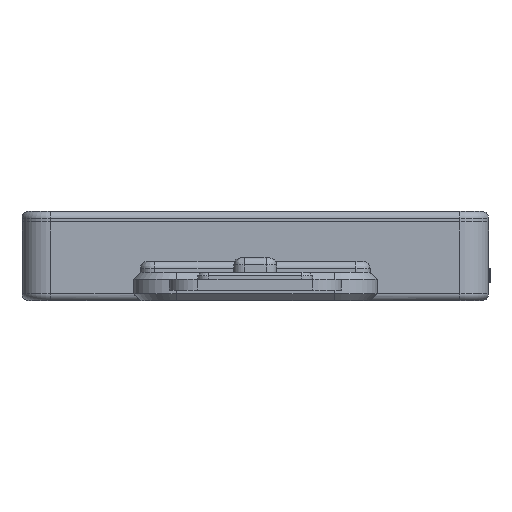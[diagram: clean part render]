
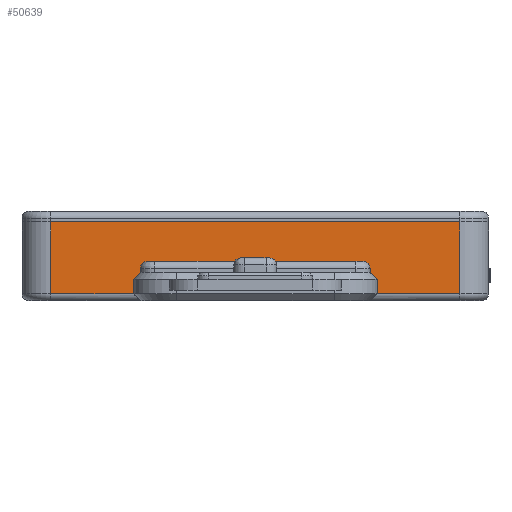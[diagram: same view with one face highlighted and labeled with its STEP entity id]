
A CAD part, front view. The second image highlights one B-rep face of the part: STEP entity #50639.
In plain terms, the highlighted planar face has unit normal (0, -1, 0).
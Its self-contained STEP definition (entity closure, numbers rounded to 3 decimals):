
#2737=PLANE('',#54921);
#5270=FACE_OUTER_BOUND('',#8335,.T.);
#8335=EDGE_LOOP('',(#44673,#44674,#44675,#44676,#44677,#44678,#44679,#44680,
#44681,#44682,#44683,#44684,#44685,#44686,#44687,#44688));
#13650=LINE('',#83322,#19224);
#13652=LINE('',#83328,#19226);
#13653=LINE('',#83330,#19227);
#13654=LINE('',#83332,#19228);
#13655=LINE('',#83334,#19229);
#13656=LINE('',#83336,#19230);
#13657=LINE('',#83338,#19231);
#13658=LINE('',#83340,#19232);
#13659=LINE('',#83342,#19233);
#13660=LINE('',#83344,#19234);
#13661=LINE('',#83346,#19235);
#13662=LINE('',#83348,#19236);
#13663=LINE('',#83350,#19237);
#13664=LINE('',#83352,#19238);
#13665=LINE('',#83354,#19239);
#13666=LINE('',#83355,#19240);
#19224=VECTOR('',#67275,10.);
#19226=VECTOR('',#67281,10.);
#19227=VECTOR('',#67282,10.);
#19228=VECTOR('',#67283,10.);
#19229=VECTOR('',#67284,10.);
#19230=VECTOR('',#67285,10.);
#19231=VECTOR('',#67286,10.);
#19232=VECTOR('',#67287,10.);
#19233=VECTOR('',#67288,10.);
#19234=VECTOR('',#67289,10.);
#19235=VECTOR('',#67290,10.);
#19236=VECTOR('',#67291,10.);
#19237=VECTOR('',#67292,10.);
#19238=VECTOR('',#67293,10.);
#19239=VECTOR('',#67294,10.);
#19240=VECTOR('',#67295,10.);
#25182=VERTEX_POINT('',#83319);
#25183=VERTEX_POINT('',#83321);
#25185=VERTEX_POINT('',#83327);
#25186=VERTEX_POINT('',#83329);
#25187=VERTEX_POINT('',#83331);
#25188=VERTEX_POINT('',#83333);
#25189=VERTEX_POINT('',#83335);
#25190=VERTEX_POINT('',#83337);
#25191=VERTEX_POINT('',#83339);
#25192=VERTEX_POINT('',#83341);
#25193=VERTEX_POINT('',#83343);
#25194=VERTEX_POINT('',#83345);
#25195=VERTEX_POINT('',#83347);
#25196=VERTEX_POINT('',#83349);
#25197=VERTEX_POINT('',#83351);
#25198=VERTEX_POINT('',#83353);
#31772=EDGE_CURVE('',#25182,#25183,#13650,.T.);
#31775=EDGE_CURVE('',#25182,#25185,#13652,.T.);
#31776=EDGE_CURVE('',#25186,#25185,#13653,.F.);
#31777=EDGE_CURVE('',#25186,#25187,#13654,.T.);
#31778=EDGE_CURVE('',#25188,#25187,#13655,.F.);
#31779=EDGE_CURVE('',#25188,#25189,#13656,.T.);
#31780=EDGE_CURVE('',#25190,#25189,#13657,.T.);
#31781=EDGE_CURVE('',#25191,#25190,#13658,.T.);
#31782=EDGE_CURVE('',#25192,#25191,#13659,.T.);
#31783=EDGE_CURVE('',#25193,#25192,#13660,.T.);
#31784=EDGE_CURVE('',#25194,#25193,#13661,.T.);
#31785=EDGE_CURVE('',#25194,#25195,#13662,.T.);
#31786=EDGE_CURVE('',#25196,#25195,#13663,.F.);
#31787=EDGE_CURVE('',#25196,#25197,#13664,.T.);
#31788=EDGE_CURVE('',#25198,#25197,#13665,.F.);
#31789=EDGE_CURVE('',#25198,#25183,#13666,.T.);
#44673=ORIENTED_EDGE('',*,*,#31772,.F.);
#44674=ORIENTED_EDGE('',*,*,#31775,.T.);
#44675=ORIENTED_EDGE('',*,*,#31776,.F.);
#44676=ORIENTED_EDGE('',*,*,#31777,.T.);
#44677=ORIENTED_EDGE('',*,*,#31778,.F.);
#44678=ORIENTED_EDGE('',*,*,#31779,.T.);
#44679=ORIENTED_EDGE('',*,*,#31780,.F.);
#44680=ORIENTED_EDGE('',*,*,#31781,.F.);
#44681=ORIENTED_EDGE('',*,*,#31782,.F.);
#44682=ORIENTED_EDGE('',*,*,#31783,.F.);
#44683=ORIENTED_EDGE('',*,*,#31784,.F.);
#44684=ORIENTED_EDGE('',*,*,#31785,.T.);
#44685=ORIENTED_EDGE('',*,*,#31786,.F.);
#44686=ORIENTED_EDGE('',*,*,#31787,.T.);
#44687=ORIENTED_EDGE('',*,*,#31788,.F.);
#44688=ORIENTED_EDGE('',*,*,#31789,.T.);
#50639=ADVANCED_FACE('',(#5270),#2737,.T.);
#54921=AXIS2_PLACEMENT_3D('',#83326,#67279,#67280);
#67275=DIRECTION('',(-1.,0.,0.));
#67279=DIRECTION('center_axis',(0.,-1.,0.));
#67280=DIRECTION('ref_axis',(-1.,0.,0.));
#67281=DIRECTION('',(0.,0.,1.));
#67282=DIRECTION('',(0.707,0.,0.707));
#67283=DIRECTION('',(1.,0.,0.));
#67284=DIRECTION('',(0.707,0.,-0.707));
#67285=DIRECTION('',(0.,0.,-1.));
#67286=DIRECTION('',(-1.,0.,0.));
#67287=DIRECTION('',(0.,0.,-1.));
#67288=DIRECTION('',(1.,0.,0.));
#67289=DIRECTION('',(0.,0.,1.));
#67290=DIRECTION('',(-1.,0.,0.));
#67291=DIRECTION('',(0.,0.,1.));
#67292=DIRECTION('',(0.707,0.,0.707));
#67293=DIRECTION('',(1.,0.,0.));
#67294=DIRECTION('',(0.707,0.,-0.707));
#67295=DIRECTION('',(0.,0.,-1.));
#83319=CARTESIAN_POINT('',(13.,-27.5,-0.5));
#83321=CARTESIAN_POINT('',(-13.,-27.5,-0.5));
#83322=CARTESIAN_POINT('',(16.25,-27.5,-0.5));
#83326=CARTESIAN_POINT('Origin',(32.5,-27.5,0.));
#83327=CARTESIAN_POINT('',(13.,-27.5,1.5));
#83328=CARTESIAN_POINT('',(13.,-27.5,-0.75));
#83329=CARTESIAN_POINT('',(14.,-27.5,2.5));
#83330=CARTESIAN_POINT('',(17.75,-27.5,6.25));
#83331=CARTESIAN_POINT('',(16.,-27.5,2.5));
#83332=CARTESIAN_POINT('',(16.25,-27.5,2.5));
#83333=CARTESIAN_POINT('',(17.,-27.5,1.5));
#83334=CARTESIAN_POINT('',(21.,-27.5,-2.5));
#83335=CARTESIAN_POINT('',(17.,-27.5,-0.5));
#83336=CARTESIAN_POINT('',(17.,-27.5,-0.75));
#83337=CARTESIAN_POINT('',(28.5,-27.5,-0.5));
#83338=CARTESIAN_POINT('',(16.25,-27.5,-0.5));
#83339=CARTESIAN_POINT('',(28.5,-27.5,9.5));
#83340=CARTESIAN_POINT('',(28.5,-27.5,0.));
#83341=CARTESIAN_POINT('',(-28.5,-27.5,9.5));
#83342=CARTESIAN_POINT('',(32.5,-27.5,9.5));
#83343=CARTESIAN_POINT('',(-28.5,-27.5,-0.5));
#83344=CARTESIAN_POINT('',(-28.5,-27.5,0.));
#83345=CARTESIAN_POINT('',(-17.,-27.5,-0.5));
#83346=CARTESIAN_POINT('',(16.25,-27.5,-0.5));
#83347=CARTESIAN_POINT('',(-17.,-27.5,1.5));
#83348=CARTESIAN_POINT('',(-17.,-27.5,-0.75));
#83349=CARTESIAN_POINT('',(-16.,-27.5,2.5));
#83350=CARTESIAN_POINT('',(-4.75,-27.5,13.75));
#83351=CARTESIAN_POINT('',(-14.,-27.5,2.5));
#83352=CARTESIAN_POINT('',(16.25,-27.5,2.5));
#83353=CARTESIAN_POINT('',(-13.,-27.5,1.5));
#83354=CARTESIAN_POINT('',(-1.5,-27.5,-10.));
#83355=CARTESIAN_POINT('',(-13.,-27.5,-0.75));
